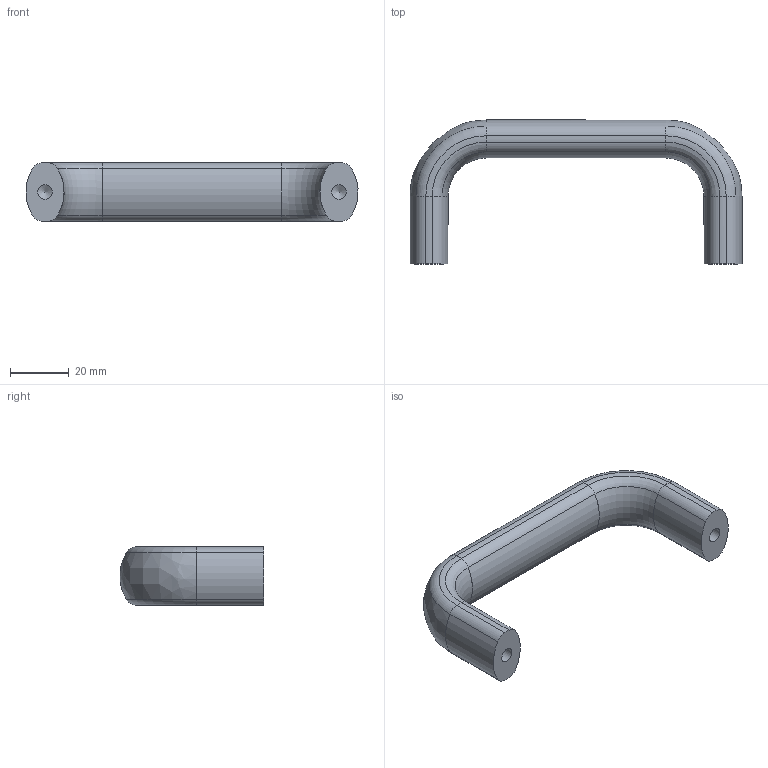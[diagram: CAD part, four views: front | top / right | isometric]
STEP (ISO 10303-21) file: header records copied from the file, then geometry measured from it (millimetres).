
FILE_DESCRIPTION( ( 'STEP AP203' ), '1' );
FILE_NAME( 'C:/Temp/Ganter_Step_05_03_2020/data/1_2/gn_565/Cabinet ''''U'''' handle GN 565-20-100-SW.stp', '2020-03-05T10:08:39', ( 'License CC BY-ND 4.0' ), ( 'CADENAS' ), ' ', 'PARTsolutions', ' ' );
FILE_SCHEMA( ( 'CONFIG_CONTROL_DESIGN' ) );
Length unit declared in the file: millimetre
Products named in the file (1): _Cabinet ''U'' handle GN 565-20-100-SW
Bounding box: 112.91 x 48.97 x 19.99 mm (x, y, z)
Volume: 34828.4 mm3; surface area: 9760.4 mm2
Topology: 1 solids, 1 shells, 53 faces, 128 edges, 77 vertices
Faces by surface type: cylinder 26, torus 14, plane 9, bspline 2, cone 2
Full cylindrical faces by diameter (mm): 4.917 x2
Entity records: 1640 total; most frequent: CARTESIAN_POINT 337, DIRECTION 304, ORIENTED_EDGE 244, AXIS2_PLACEMENT_3D 140, EDGE_CURVE 122, CIRCLE 88, VERTEX_POINT 77, EDGE_LOOP 57
